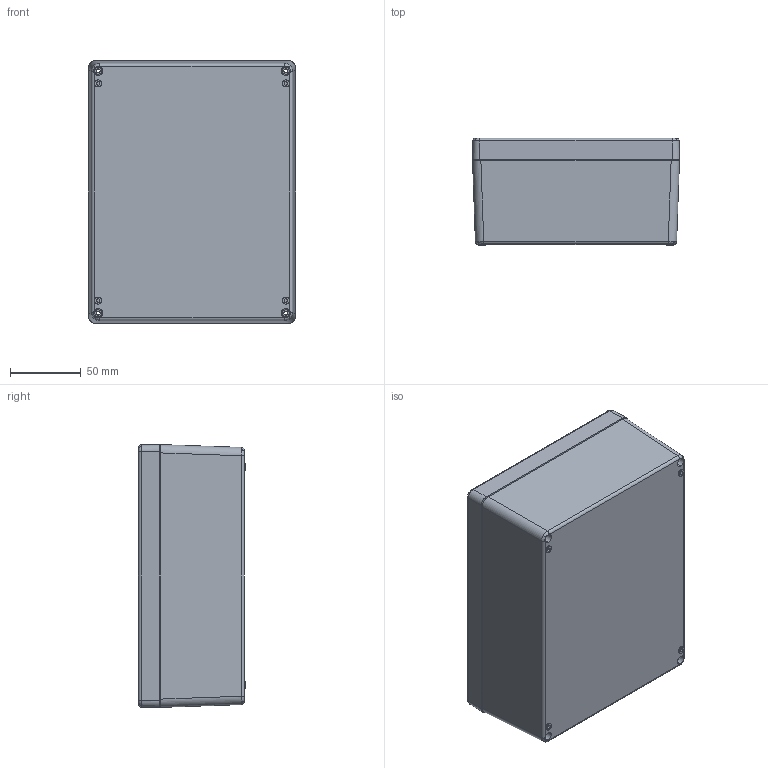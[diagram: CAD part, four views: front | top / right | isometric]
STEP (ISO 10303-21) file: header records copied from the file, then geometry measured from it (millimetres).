
FILE_DESCRIPTION (( 'STEP AP214' ), '1' );
FILE_NAME ('BEN-80.STEP', '2022-12-22T14:59:28', ( 'rfkube@comcast.net' ), ( '' ), 'SwSTEP 2.0', 'SolidWorks 2016', '' );
FILE_SCHEMA (( 'AUTOMOTIVE_DESIGN' ));
Length unit declared in the file: inch
Products named in the file (5): BEN 80 seal; BEN-80; BEN-080 Top; BEN-80 Bottom; Thread insert
Assembly tree (7 placements, depth 2):
  BEN-80
    BEN-80 Bottom
    BEN-080 Top
    BEN 80 seal
    Thread insert  x4
Bounding box: 146.7 x 75.89 x 186.3 mm (x, y, z)
Volume: 330686.7 mm3; surface area: 214140.8 mm2
Topology: 7 solids, 7 shells, 515 faces, 1216 edges, 774 vertices
Faces by surface type: cylinder 252, plane 157, torus 58, bspline 40, cone 8
Entity records: 17198 total; most frequent: CARTESIAN_POINT 3785, DIRECTION 2506, ORIENTED_EDGE 2360, EDGE_CURVE 1180, AXIS2_PLACEMENT_3D 1007, VERTEX_POINT 750, EDGE_LOOP 576, CIRCLE 540
